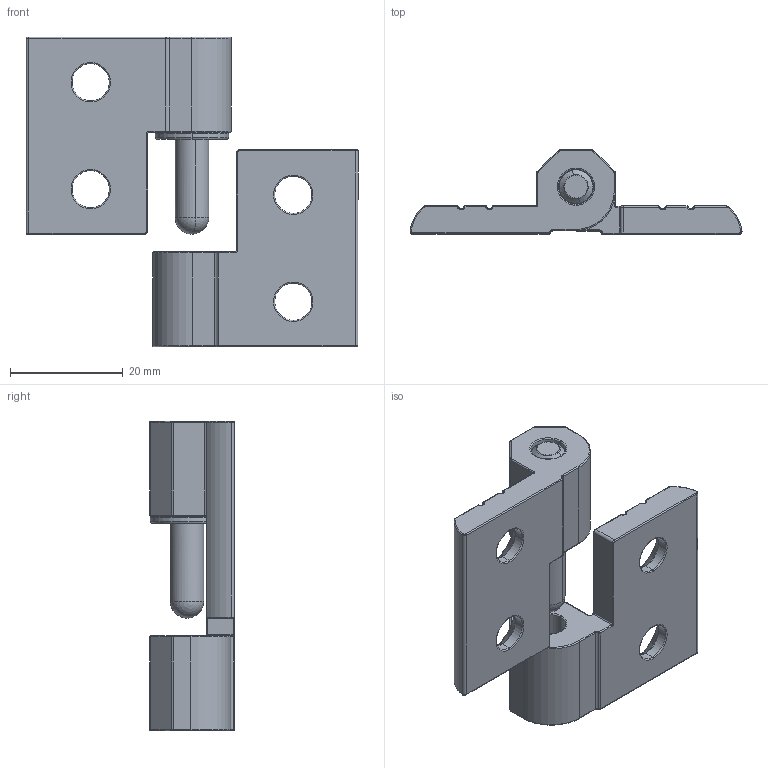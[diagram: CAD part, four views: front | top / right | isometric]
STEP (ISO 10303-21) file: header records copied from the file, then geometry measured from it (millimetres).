
FILE_DESCRIPTION (( 'STEP AP214' ), '1' );
FILE_NAME ('HGA-5935-3619-L.STEP', '2020-03-23T07:13:19', ( '' ), ( '' ), 'SwSTEP 2.0', 'SolidWorks 2016', '' );
FILE_SCHEMA (( 'AUTOMOTIVE_DESIGN' ));
Length unit declared in the file: millimetre
Products named in the file (4): 脣誏; 墊片; 縡?ﾆｬ; HGA-5935-3619-L
Assembly tree (4 placements, depth 2):
  HGA-5935-3619-L
    縡?ﾆｬ  x2
    脣誏
    墊片
Bounding box: 59 x 15 x 55 mm (x, y, z)
Volume: 12265.7 mm3; surface area: 7730.5 mm2
Topology: 4 solids, 4 shells, 604 faces, 1473 edges, 819 vertices
Faces by surface type: cylinder 291, torus 118, plane 95, sphere 58, bspline 32, cone 10
Entity records: 13369 total; most frequent: CARTESIAN_POINT 3269, DIRECTION 2331, ORIENTED_EDGE 2026, AXIS2_PLACEMENT_3D 1031, EDGE_CURVE 1013, CIRCLE 622, VERTEX_POINT 599, EDGE_LOOP 424
